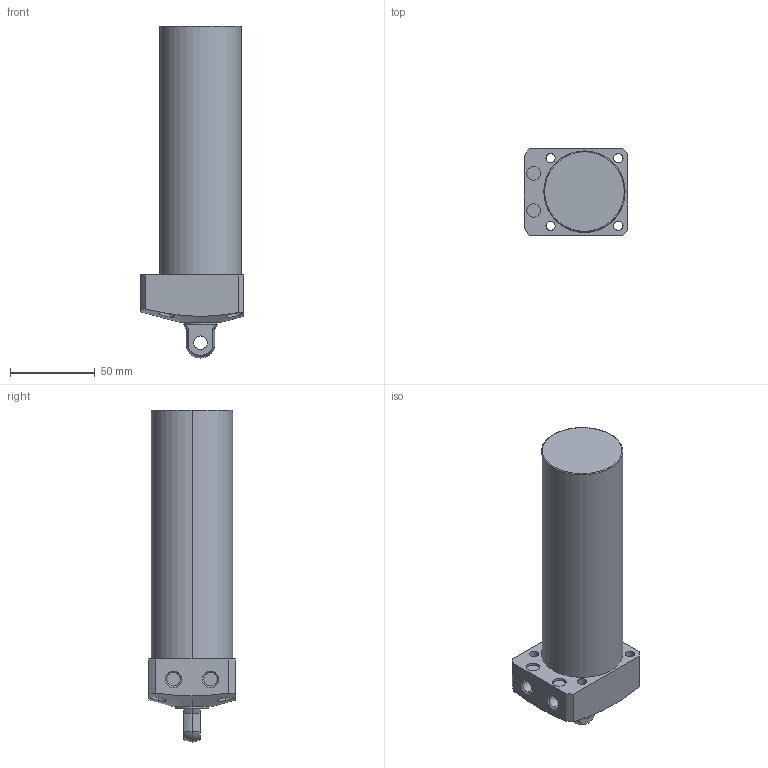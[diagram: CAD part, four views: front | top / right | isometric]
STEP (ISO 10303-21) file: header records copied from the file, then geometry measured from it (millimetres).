
FILE_DESCRIPTION (( 'STEP AP203' ), '1' );
FILE_NAME ('CLL-048CP-120.STEP', '2019-12-21T06:58:20', ( '' ), ( '' ), 'SwSTEP 2.0', 'SolidWorks 2015', '' );
FILE_SCHEMA (( 'CONFIG_CONTROL_DESIGN' ));
Length unit declared in the file: millimetre
Products named in the file (1): CLL-048CP-120
Bounding box: 61 x 51 x 196 mm (x, y, z)
Volume: 341342.8 mm3; surface area: 36986.5 mm2
Topology: 1 solids, 1 shells, 68 faces, 159 edges, 103 vertices
Faces by surface type: cylinder 35, plane 21, cone 8, sphere 2, torus 2
Entity records: 2390 total; most frequent: CARTESIAN_POINT 693, DIRECTION 357, ORIENTED_EDGE 318, EDGE_CURVE 159, AXIS2_PLACEMENT_3D 149, VERTEX_POINT 103, EDGE_LOOP 88, CIRCLE 80
